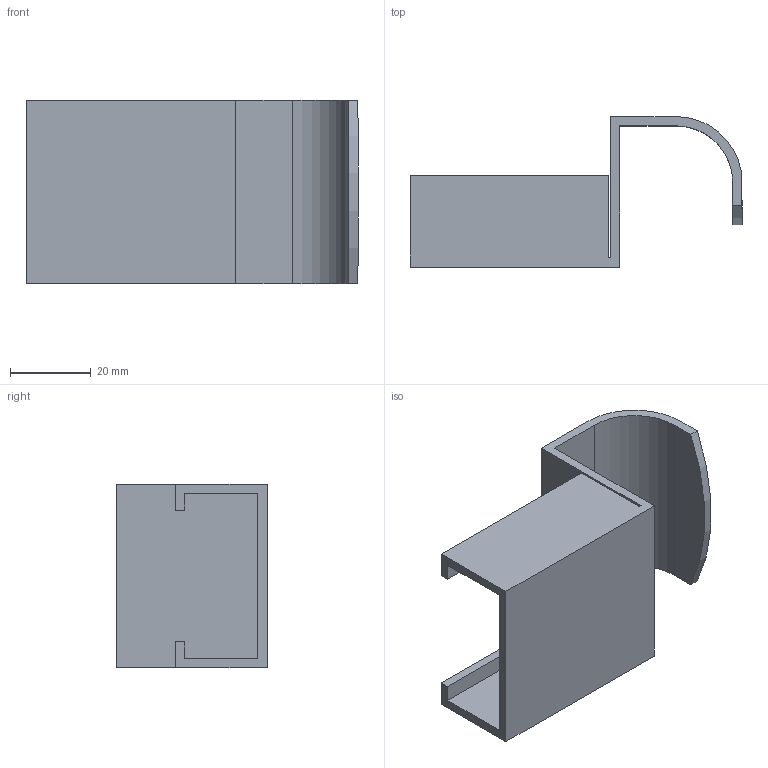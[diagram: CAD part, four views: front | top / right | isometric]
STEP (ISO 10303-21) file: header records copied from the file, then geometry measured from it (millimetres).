
FILE_DESCRIPTION (( 'STEP AP214' ), '1' );
FILE_NAME ('JB-501H.step', '2023-12-26T01:20:01', ( 'catia' ), ( 'HP Inc.' ), 'SwSTEP 2.0', 'SolidWorks 2021', '' );
FILE_SCHEMA (( 'AUTOMOTIVE_DESIGN' ));
Length unit declared in the file: millimetre
Products named in the file (1): JB-501H
Bounding box: 82.3 x 37.3 x 45.6 mm (x, y, z)
Volume: 19608.7 mm3; surface area: 18090.9 mm2
Topology: 1 solids, 1 shells, 24 faces, 66 edges, 44 vertices
Faces by surface type: plane 21, cylinder 3
Entity records: 790 total; most frequent: CARTESIAN_POINT 135, ORIENTED_EDGE 132, DIRECTION 122, EDGE_CURVE 66, VECTOR 60, LINE 60, VERTEX_POINT 44, AXIS2_PLACEMENT_3D 31
